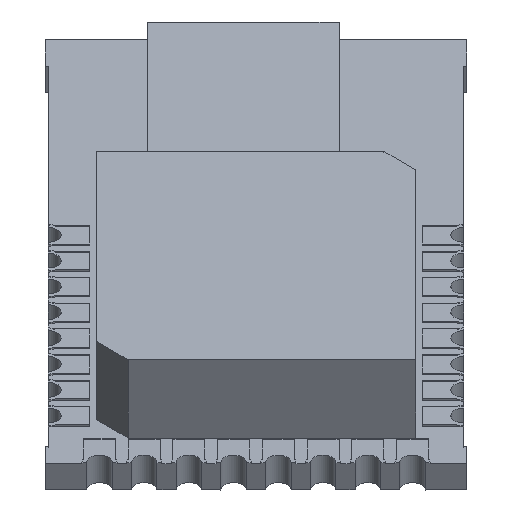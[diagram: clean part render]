
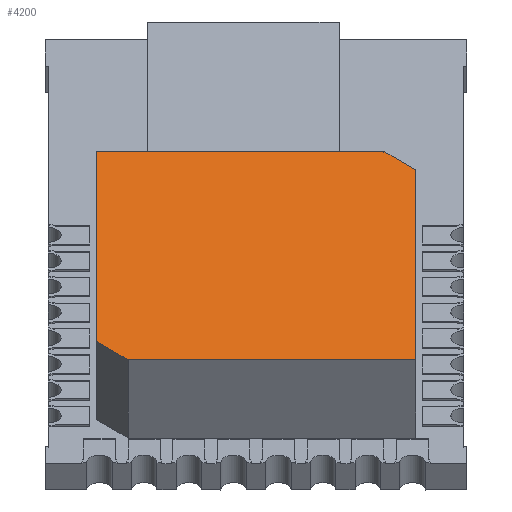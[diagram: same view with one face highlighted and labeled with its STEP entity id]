
A CAD part, isometric view. The second image highlights one B-rep face of the part: STEP entity #4200.
In plain terms, the highlighted planar face has unit normal (0, 0, 1).
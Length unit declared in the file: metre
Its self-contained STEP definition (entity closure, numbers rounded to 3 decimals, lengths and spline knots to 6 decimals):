
#12=PLANE('',#4553);
#410=ORIENTED_EDGE('',*,*,#1694,.F.);
#411=ORIENTED_EDGE('',*,*,#1695,.F.);
#412=ORIENTED_EDGE('',*,*,#1696,.F.);
#413=ORIENTED_EDGE('',*,*,#1697,.F.);
#414=ORIENTED_EDGE('',*,*,#1698,.F.);
#415=ORIENTED_EDGE('',*,*,#1699,.F.);
#1694=EDGE_CURVE('',#2336,#2337,#2716,.T.);
#1695=EDGE_CURVE('',#2338,#2336,#2717,.T.);
#1696=EDGE_CURVE('',#2339,#2338,#2718,.T.);
#1697=EDGE_CURVE('',#2340,#2339,#2719,.T.);
#1698=EDGE_CURVE('',#2341,#2340,#2720,.T.);
#1699=EDGE_CURVE('',#2337,#2341,#2721,.T.);
#2336=VERTEX_POINT('',#6286);
#2337=VERTEX_POINT('',#6287);
#2338=VERTEX_POINT('',#6289);
#2339=VERTEX_POINT('',#6291);
#2340=VERTEX_POINT('',#6293);
#2341=VERTEX_POINT('',#6295);
#2716=LINE('',#6285,#3214);
#2717=LINE('',#6288,#3215);
#2718=LINE('',#6290,#3216);
#2719=LINE('',#6292,#3217);
#2720=LINE('',#6294,#3218);
#2721=LINE('',#6296,#3219);
#3214=VECTOR('',#5039,1.);
#3215=VECTOR('',#5040,1.);
#3216=VECTOR('',#5041,1.);
#3217=VECTOR('',#5042,1.);
#3218=VECTOR('',#5043,1.);
#3219=VECTOR('',#5044,1.);
#3688=EDGE_LOOP('',(#410,#411,#412,#413,#414,#415));
#3908=FACE_BOUND('',#3688,.T.);
#4200=ADVANCED_FACE('',(#3908),#12,.T.);
#4553=AXIS2_PLACEMENT_3D('',#6284,#5037,#5038);
#5037=DIRECTION('',(0.,0.,1.));
#5038=DIRECTION('',(0.707,-0.707,0.));
#5039=DIRECTION('',(0.,1.,0.));
#5040=DIRECTION('',(-0.707,0.707,0.));
#5041=DIRECTION('',(-0.707,-0.707,0.));
#5042=DIRECTION('',(0.,-1.,0.));
#5043=DIRECTION('',(0.707,-0.707,0.));
#5044=DIRECTION('',(0.707,0.707,0.));
#6284=CARTESIAN_POINT('',(0.167316,-0.097147,0.005595));
#6285=CARTESIAN_POINT('',(0.160492,-0.098313,0.005595));
#6286=CARTESIAN_POINT('',(0.160492,-0.098313,0.005595));
#6287=CARTESIAN_POINT('',(0.160492,-0.096899,0.005595));
#6288=CARTESIAN_POINT('',(0.166856,-0.104677,0.005595));
#6289=CARTESIAN_POINT('',(0.166856,-0.104677,0.005595));
#6290=CARTESIAN_POINT('',(0.174139,-0.097394,0.005595));
#6291=CARTESIAN_POINT('',(0.174139,-0.097394,0.005595));
#6292=CARTESIAN_POINT('',(0.174139,-0.09598,0.005595));
#6293=CARTESIAN_POINT('',(0.174139,-0.09598,0.005595));
#6294=CARTESIAN_POINT('',(0.167775,-0.089616,0.005595));
#6295=CARTESIAN_POINT('',(0.167775,-0.089616,0.005595));
#6296=CARTESIAN_POINT('',(0.160492,-0.096899,0.005595));
